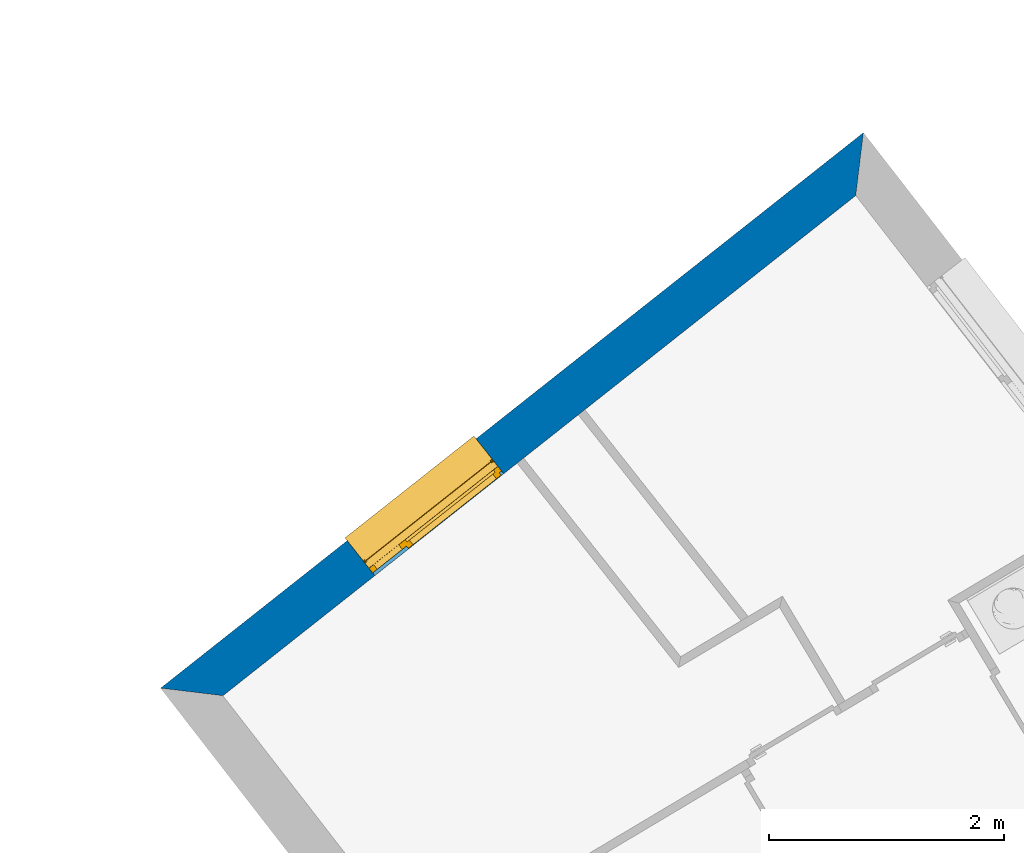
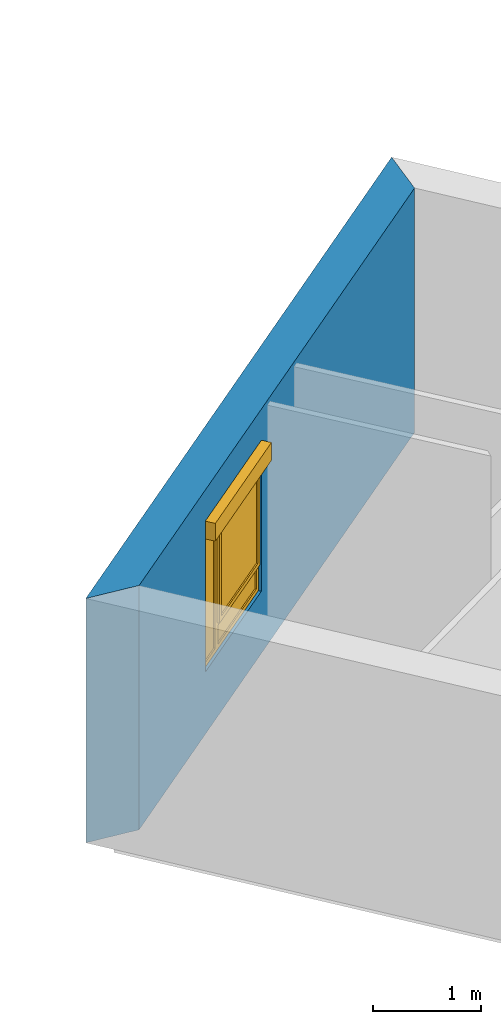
# One storey, part 42 of 121: 1 wall, 1 window, 1 opening.
"""IFC2X3 building model written with IfcOpenShell, lengths in metres."""

from ifc_helpers import new_model, entity, si_unit, converted_unit, derived_unit, money_unit, direction, frame, origin_with_axes, place, context, subcontext, project, spatial, polyline, outline, extrude, open_shell, faceted_brep, surface_model, source, transform, mapped, material, layer, layer_set, layer_usage, type_object, element, fill, save


model = new_model("IFC2X3")

# Units and contexts
model_context = context("Model", 3, precision=1e-05, world=origin_with_axes(), true_north=direction((0.0, 1.0)))
body_context = subcontext(model_context, "Body", "Model", "MODEL_VIEW")
ifc_project = project(units=[si_unit("LENGTHUNIT", "METRE"), si_unit("AREAUNIT", "SQUARE_METRE"), si_unit("VOLUMEUNIT", "CUBIC_METRE"), converted_unit("PLANEANGLEUNIT", "DEGREE", entity("IfcPlaneAngleMeasure", 0.0174532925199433), si_unit("PLANEANGLEUNIT", "RADIAN"), dimensions=[0, 0, 0, 0, 0, 0, 0]), money_unit("CHF"), converted_unit("TIMEUNIT", "Year", entity("IfcTimeMeasure", 31557600.0), si_unit("TIMEUNIT", "SECOND"), dimensions=[0, 0, 1, 0, 0, 0, 0]), si_unit("MASSUNIT", "GRAM", prefix="KILO"), si_unit("THERMODYNAMICTEMPERATUREUNIT", "DEGREE_CELSIUS"), si_unit("LUMINOUSINTENSITYUNIT", "LUMEN"), si_unit("ENERGYUNIT", "JOULE", prefix="MEGA"), derived_unit("THERMALCONDUCTANCEUNIT", [(si_unit("POWERUNIT", "WATT"), 1), (si_unit("LENGTHUNIT", "METRE"), -1), (si_unit("THERMODYNAMICTEMPERATUREUNIT", "KELVIN"), -1)]), derived_unit("SPECIFICHEATCAPACITYUNIT", [(si_unit("ENERGYUNIT", "JOULE"), 1), (si_unit("MASSUNIT", "GRAM", prefix="KILO"), -1), (si_unit("THERMODYNAMICTEMPERATUREUNIT", "KELVIN"), -1)]), derived_unit("MASSDENSITYUNIT", [(si_unit("MASSUNIT", "GRAM", prefix="KILO"), 1), (si_unit("VOLUMEUNIT", "CUBIC_METRE"), -1)])], contexts=[model_context])

# Site, building, storey
site_placement = place(None, origin_with_axes())
site = spatial("IfcSite", under=ifc_project, at=site_placement, Name="Site", CompositionType="ELEMENT")
building_placement = place(site_placement, origin_with_axes())
building = spatial("IfcBuilding", under=site, at=building_placement, Name="Bâtiment", CompositionType="ELEMENT")
storey_placement = place(building_placement, frame((0.0, 0.0, 2.75), z_axis=(0.0, 0.0, 1.0), x_axis=(1.0, 0.0, 0.0)))
storey = spatial("IfcBuildingStorey", under=building, at=storey_placement, Name="Etage 1", CompositionType="ELEMENT", Elevation=2.75)

# Wall, opening, window
ifc_material_1 = material(Name="Parpaing 312445824")
ifc_layer_1 = layer(ifc_material_1, 0.22, ventilated="UNKNOWN")
ifc_material_2 = material(Name="Isolant styromousse 301821074")
ifc_layer_2 = layer(ifc_material_2, 0.16, ventilated="UNKNOWN")
ifc_layer_set = layer_set([ifc_layer_1, ifc_layer_2], Name="isol int 22+16 0836643197")
ifc_layer_usage = layer_usage(ifc_layer_set, "AXIS2", "POSITIVE", 0.0)
wall_type = type_object("IfcWallType", Name="isol int 22+16 0836643197 380", PredefinedType="NOTDEFINED")
wall_placement = place(storey_placement, frame((9540.339143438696, -1037.191138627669, 57.7), z_axis=(0.0, 0.0, 1.0), x_axis=(-0.7845427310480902, -0.6200747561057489, 0.0)))
wall = element("IfcWallStandardCase", 1, at=wall_placement, inside=storey, type_object=wall_type, material=ifc_layer_usage, Name="Mur-113", context=body_context, shape_type="SweptSolid", body=[
    extrude(outline(polyline([(0.0, 0.0), (7.632717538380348, 0.0), (7.256232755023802, 0.3799999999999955), (0.38348109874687, 0.3799999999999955), (0.0, 0.0)])), origin_with_axes(), (0.0, 0.0, 1.0), 2.75),
])
opening_placement = place(wall_placement, frame((4.906284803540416, 0.0, 0.7000000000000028), z_axis=(0.0, 0.0, 1.0), x_axis=(1.0, 0.0, 0.0)))
opening = element("IfcOpeningElement", 2, at=opening_placement, cuts=wall, Name="Fen-045", context=body_context, shape_type="Brep", body=[
    faceted_brep([(-0.7000000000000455, 0.2999999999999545, 1.5), (-0.7000000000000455, 0.4799999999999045, 1.5), (-0.7000000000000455, 4.094127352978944, 1.5), (-0.7000000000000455, 4.094127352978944, 0.0), (-0.7000000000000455, 0.2999999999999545, 0.0), (-0.7000000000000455, 0.2200000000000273, 1.5), (-0.7000000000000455, 0.2200000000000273, 1.700000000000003), (-0.7000000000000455, 0.4799999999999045, 1.700000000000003), (0.6999999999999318, 0.4799999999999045, 1.5), (0.6999999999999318, 4.094127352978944, 1.5), (0.6999999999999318, 4.094127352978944, 0.0), (0.6999999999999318, 0.2999999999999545, 0.0), (-0.7000000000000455, -3.71412735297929, 0.0), (-0.7000000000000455, -3.71412735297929, 1.5), (0.7000000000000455, 0.2199999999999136, 1.5), (0.7000000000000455, 0.2199999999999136, 1.700000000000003), (0.6999999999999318, 0.4799999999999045, 1.700000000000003), (0.7000000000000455, 0.3000000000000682, 1.5), (0.6999999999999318, -3.714127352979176, 0.0), (0.6999999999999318, -3.714127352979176, 1.5)], [[[0, 1, 2, 3, 4]], [[1, 0, 5, 6, 7]], [[1, 8, 9, 2]], [[9, 10, 3, 2]], [[11, 4, 3, 10]], [[5, 0, 4, 12, 13]], [[5, 14, 15, 6]], [[15, 16, 7, 6]], [[8, 1, 7, 16]], [[8, 17, 11, 10, 9]], [[4, 11, 18, 12]], [[13, 12, 18, 19]], [[14, 5, 13, 19]], [[17, 8, 16, 15, 14]], [[17, 14, 19, 18, 11]]]),
])
window_style = type_object("IfcWindowStyle", Name="Fenêtre variable 27", ConstructionType="NOTDEFINED", OperationType="TRIPLE_PANEL_RIGHT", ParameterTakesPrecedence=False, Sizeable=False)
shared_shape = source(origin_with_axes(), body_context, "Body", "SurfaceModel", [
    surface_model("IfcShellBasedSurfaceModel", [(-0.7, -0.05100000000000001, 0.05), (-0.7, -0.05100000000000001, 0.04), (0.7, -0.05100000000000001, 0.04000000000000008), (0.7, -0.05100000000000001, 0.05000000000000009), (-0.7, -0.3799999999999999, 0.02899999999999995), (0.7, -0.3799999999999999, 0.02900000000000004), (-0.7, -0.3799999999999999, 0.008999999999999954), (0.7, -0.3799999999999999, 0.00900000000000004), (-0.7, -0.3699999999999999, 0.01899999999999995), (0.7, -0.3699999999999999, 0.01900000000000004)], [open_shell([[[0, 1, 2, 3]], [[1, 4, 5, 2]], [[4, 6, 7, 5]], [[6, 8, 9, 7]]])]),
    faceted_brep([(-0.7, -0.13, 1.7), (-0.697, -0.13, 1.7), (-0.697, 0.13, 1.7), (-0.7, 0.13, 1.7), (-0.7, -0.13, 1.5), (-0.697, -0.13, 1.5), (-0.697, 0.13, 1.5), (-0.7, 0.13, 1.5)], [[[0, 1, 2, 3]], [[4, 5, 1, 0]], [[1, 5, 6, 2]], [[3, 2, 6, 7]], [[0, 3, 7, 4]], [[7, 6, 5, 4]]]),
    faceted_brep([(0.6970000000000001, -0.1299999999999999, 1.7), (0.7000000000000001, -0.1299999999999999, 1.7), (0.7000000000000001, 0.1300000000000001, 1.7), (0.6970000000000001, 0.1300000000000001, 1.7), (0.6970000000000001, -0.1299999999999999, 1.5), (0.7000000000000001, -0.1299999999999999, 1.5), (0.7000000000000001, 0.1300000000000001, 1.5), (0.6970000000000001, 0.1300000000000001, 1.5)], [[[0, 1, 2, 3]], [[4, 5, 1, 0]], [[1, 5, 6, 2]], [[3, 2, 6, 7]], [[0, 3, 7, 4]], [[7, 6, 5, 4]]]),
    faceted_brep([(-0.697, -0.13, 1.5), (0.697, -0.1299999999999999, 1.5), (0.697, -0.1299999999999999, 1.7), (-0.697, -0.13, 1.7), (-0.697, -0.127, 1.5), (0.697, -0.1269999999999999, 1.5), (0.697, -0.1269999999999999, 1.697), (0.697, 0.1270000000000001, 1.697), (0.697, 0.1270000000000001, 1.503), (0.697, -0.1079999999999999, 1.503), (0.697, -0.1079999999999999, 1.5), (0.697, 0.1300000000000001, 1.5), (0.697, 0.1300000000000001, 1.7), (-0.697, 0.13, 1.7), (-0.697, 0.13, 1.5), (-0.697, -0.108, 1.5), (-0.697, -0.108, 1.503), (-0.697, 0.127, 1.503), (-0.697, 0.127, 1.697), (-0.697, -0.127, 1.697)], [[[0, 1, 2, 3]], [[4, 5, 1, 0]], [[1, 5, 6, 7, 8, 9, 10, 11, 12, 2]], [[3, 2, 12, 13]], [[0, 3, 13, 14, 15, 16, 17, 18, 19, 4]], [[19, 6, 5, 4]], [[18, 7, 6, 19]], [[17, 8, 7, 18]], [[16, 9, 8, 17]], [[15, 10, 9, 16]], [[14, 11, 10, 15]], [[13, 12, 11, 14]]]),
    faceted_brep([(-0.694, -0.08075423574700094, 1.585760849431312), (-0.694, -0.08200000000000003, 1.6), (-0.694, -0.0807542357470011, 1.614239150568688), (-0.694, -0.07705479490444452, 1.628045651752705), (-0.694, -0.07101408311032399, 1.641), (-0.694, -0.06281564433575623, 1.652708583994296), (-0.694, -0.05270858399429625, 1.662815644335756), (-0.694, -0.04100000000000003, 1.671014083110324), (-0.694, -0.02804565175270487, 1.677054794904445), (-0.694, -0.01423915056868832, 1.680754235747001), (-0.694, 0.0, 1.682), (-0.694, 0.01423915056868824, 1.680754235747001), (-0.694, 0.02804565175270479, 1.677054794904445), (-0.694, 0.04099999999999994, 1.671014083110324), (-0.694, 0.05270858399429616, 1.662815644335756), (-0.694, 0.06281564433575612, 1.652708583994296), (-0.694, 0.07101408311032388, 1.641), (-0.694, 0.0770547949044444, 1.628045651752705), (-0.694, 0.08075423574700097, 1.614239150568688), (-0.694, 0.0819999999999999, 1.6), (-0.694, 0.08075423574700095, 1.585760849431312), (-0.694, 0.07705479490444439, 1.571954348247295), (-0.694, 0.07101408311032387, 1.559), (-0.694, 0.06281564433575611, 1.547291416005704), (-0.694, 0.05270858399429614, 1.537184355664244), (-0.694, 0.04099999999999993, 1.528985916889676), (-0.694, 0.02804565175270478, 1.522945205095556), (-0.694, 0.01423915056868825, 1.519245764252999), (-0.694, 0.0, 1.518), (-0.694, -0.01423915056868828, 1.519245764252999), (-0.694, -0.02804565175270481, 1.522945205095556), (-0.694, -0.04099999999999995, 1.528985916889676), (-0.694, -0.05270858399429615, 1.537184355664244), (-0.694, -0.06281564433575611, 1.547291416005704), (-0.694, -0.07101408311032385, 1.559), (-0.694, -0.07705479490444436, 1.571954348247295), (0.694, -0.08075423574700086, 1.585760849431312), (0.694, -0.08199999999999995, 1.6), (0.694, -0.08075423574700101, 1.614239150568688), (0.694, -0.07705479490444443, 1.628045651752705), (0.694, -0.07101408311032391, 1.641), (0.694, -0.06281564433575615, 1.652708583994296), (0.694, -0.05270858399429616, 1.662815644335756), (0.694, -0.04099999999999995, 1.671014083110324), (0.694, -0.02804565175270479, 1.677054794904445), (0.694, -0.01423915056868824, 1.680754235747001), (0.694, 0.0, 1.682), (0.694, 0.01423915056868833, 1.680754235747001), (0.694, 0.02804565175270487, 1.677054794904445), (0.694, 0.04100000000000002, 1.671014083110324), (0.694, 0.05270858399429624, 1.662815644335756), (0.694, 0.0628156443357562, 1.652708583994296), (0.694, 0.07101408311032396, 1.641), (0.694, 0.07705479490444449, 1.628045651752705), (0.694, 0.08075423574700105, 1.614239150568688), (0.694, 0.08199999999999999, 1.6), (0.694, 0.08075423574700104, 1.585760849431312), (0.694, 0.07705479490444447, 1.571954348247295), (0.694, 0.07101408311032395, 1.559), (0.694, 0.06281564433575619, 1.547291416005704), (0.694, 0.05270858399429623, 1.537184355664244), (0.694, 0.04100000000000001, 1.528985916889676), (0.694, 0.02804565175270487, 1.522945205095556), (0.694, 0.01423915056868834, 1.519245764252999), (0.694, 0.0, 1.518), (0.694, -0.0142391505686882, 1.519245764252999), (0.694, -0.02804565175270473, 1.522945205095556), (0.694, -0.04099999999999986, 1.528985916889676), (0.694, -0.05270858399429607, 1.537184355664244), (0.694, -0.06281564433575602, 1.547291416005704), (0.694, -0.07101408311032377, 1.559), (0.694, -0.07705479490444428, 1.571954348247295)], [[[0, 1, 2, 3, 4, 5, 6, 7, 8, 9, 10, 11, 12, 13, 14, 15, 16, 17, 18, 19, 20, 21, 22, 23, 24, 25, 26, 27, 28, 29, 30, 31, 32, 33, 34, 35]], [[0, 36, 37, 1]], [[1, 37, 38, 2]], [[2, 38, 39, 3]], [[3, 39, 40, 4]], [[4, 40, 41, 5]], [[5, 41, 42, 6]], [[6, 42, 43, 7]], [[7, 43, 44, 8]], [[8, 44, 45, 9]], [[9, 45, 46, 10]], [[10, 46, 47, 11]], [[11, 47, 48, 12]], [[12, 48, 49, 13]], [[13, 49, 50, 14]], [[14, 50, 51, 15]], [[15, 51, 52, 16]], [[16, 52, 53, 17]], [[17, 53, 54, 18]], [[18, 54, 55, 19]], [[19, 55, 56, 20]], [[20, 56, 57, 21]], [[21, 57, 58, 22]], [[22, 58, 59, 23]], [[23, 59, 60, 24]], [[24, 60, 61, 25]], [[25, 61, 62, 26]], [[26, 62, 63, 27]], [[27, 63, 64, 28]], [[28, 64, 65, 29]], [[29, 65, 66, 30]], [[30, 66, 67, 31]], [[31, 67, 68, 32]], [[32, 68, 69, 33]], [[33, 69, 70, 34]], [[34, 70, 71, 35]], [[35, 71, 36, 0]], [[36, 71, 70, 69, 68, 67, 66, 65, 64, 63, 62, 61, 60, 59, 58, 57, 56, 55, 54, 53, 52, 51, 50, 49, 48, 47, 46, 45, 44, 43, 42, 41, 40, 39, 38, 37]]]),
    faceted_brep([(0.7, -0.105, 0.03), (0.7, -0.1049999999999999, 1.5), (0.7, -0.1299999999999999, 1.5), (0.7, -0.13, 0.03), (0.6749999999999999, -0.105, 0.03), (0.6749999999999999, -0.1049999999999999, 1.5), (0.6749999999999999, -0.1079999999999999, 1.5), (0.697, -0.1079999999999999, 1.5), (0.697, -0.1269999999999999, 1.5), (0.6749999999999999, -0.1269999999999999, 1.5), (0.6749999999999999, -0.1299999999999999, 1.5), (0.6749999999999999, -0.13, 0.03), (0.6749999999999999, -0.127, 0.03), (0.697, -0.127, 0.03), (0.697, -0.108, 0.03), (0.6749999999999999, -0.108, 0.03)], [[[0, 1, 2, 3]], [[4, 5, 1, 0]], [[1, 5, 6, 7, 8, 9, 10, 2]], [[3, 2, 10, 11]], [[0, 3, 11, 12, 13, 14, 15, 4]], [[15, 6, 5, 4]], [[14, 7, 6, 15]], [[13, 8, 7, 14]], [[12, 9, 8, 13]], [[11, 10, 9, 12]]]),
    faceted_brep([(-0.7, -0.105, 0.03), (-0.7, -0.13, 0.03), (-0.7, -0.1299999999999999, 1.5), (-0.7, -0.1049999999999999, 1.5), (-0.6749999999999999, -0.105, 0.03), (-0.6749999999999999, -0.108, 0.03), (-0.697, -0.108, 0.03), (-0.697, -0.127, 0.03), (-0.6749999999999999, -0.127, 0.03), (-0.6749999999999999, -0.13, 0.03), (-0.6749999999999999, -0.1299999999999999, 1.5), (-0.6749999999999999, -0.1269999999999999, 1.5), (-0.697, -0.1269999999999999, 1.5), (-0.697, -0.1079999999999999, 1.5), (-0.6749999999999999, -0.1079999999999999, 1.5), (-0.6749999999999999, -0.1049999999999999, 1.5)], [[[0, 1, 2, 3]], [[0, 4, 5, 6, 7, 8, 9, 1]], [[1, 9, 10, 2]], [[3, 2, 10, 11, 12, 13, 14, 15]], [[4, 0, 3, 15]], [[5, 4, 15, 14]], [[6, 5, 14, 13]], [[7, 6, 13, 12]], [[8, 7, 12, 11]], [[9, 8, 11, 10]]]),
    surface_model("IfcShellBasedSurfaceModel", [(-0.697, -0.115, 1.6), (0.697, -0.1149999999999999, 1.6), (0.697, -0.1199999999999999, 1.6), (-0.697, -0.12, 1.6), (-0.697, -0.115, 1.6), (-0.697, -0.12, 1.6), (0.697, -0.12, 1.6), (0.697, -0.1149999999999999, 1.6)], [open_shell([[[0, 1, 2, 3]], [[4, 5, 6, 7]]])]),
    faceted_brep([(-0.697, -0.115, 1.6), (0.697, -0.1149999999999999, 1.6), (0.697, -0.1166666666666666, 1.583333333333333), (-0.697, -0.1166666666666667, 1.583333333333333), (-0.697, -0.12, 1.6), (0.697, -0.1199999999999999, 1.6), (0.697, -0.1216666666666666, 1.583333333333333), (0.697, -0.1216666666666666, 1.566666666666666), (0.697, -0.1199999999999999, 1.55), (0.697, -0.1149999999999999, 1.55), (0.697, -0.1166666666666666, 1.566666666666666), (-0.697, -0.1166666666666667, 1.566666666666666), (-0.697, -0.115, 1.55), (-0.697, -0.12, 1.55), (-0.697, -0.1216666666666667, 1.566666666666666), (-0.697, -0.1216666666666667, 1.583333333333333)], [[[0, 1, 2, 3]], [[4, 5, 1, 0]], [[1, 5, 6, 7, 8, 9, 10, 2]], [[3, 2, 10, 11]], [[0, 3, 11, 12, 13, 14, 15, 4]], [[15, 6, 5, 4]], [[14, 7, 6, 15]], [[13, 8, 7, 14]], [[12, 9, 8, 13]], [[11, 10, 9, 12]]]),
    faceted_brep([(-0.697, -0.115, 1.55), (0.697, -0.1149999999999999, 1.55), (0.697, -0.1166666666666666, 1.533333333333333), (-0.697, -0.1166666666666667, 1.533333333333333), (-0.697, -0.12, 1.55), (0.697, -0.1199999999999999, 1.55), (0.697, -0.1216666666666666, 1.533333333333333), (0.697, -0.1216666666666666, 1.516666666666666), (0.697, -0.1199999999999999, 1.5), (0.697, -0.1149999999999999, 1.5), (0.697, -0.1166666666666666, 1.516666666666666), (-0.697, -0.1166666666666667, 1.516666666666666), (-0.697, -0.115, 1.5), (-0.697, -0.12, 1.5), (-0.697, -0.1216666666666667, 1.516666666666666), (-0.697, -0.1216666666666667, 1.533333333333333)], [[[0, 1, 2, 3]], [[4, 5, 1, 0]], [[1, 5, 6, 7, 8, 9, 10, 2]], [[3, 2, 10, 11]], [[0, 3, 11, 12, 13, 14, 15, 4]], [[15, 6, 5, 4]], [[14, 7, 6, 15]], [[13, 8, 7, 14]], [[12, 9, 8, 13]], [[11, 10, 9, 12]]]),
    faceted_brep([(-0.6749999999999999, 0.0, 1.45), (-0.7, 0.0, 1.45), (-0.7, -0.05000000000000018, 1.45), (-0.6499999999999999, -0.05000000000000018, 1.45), (-0.6499999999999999, -0.02500000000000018, 1.45), (-0.6749999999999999, -0.02500000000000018, 1.45), (-0.6749999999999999, 0.0, 0.3099999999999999), (-0.6499999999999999, 0.0, 0.3099999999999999), (-0.6499999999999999, 0.0, 0.265), (-0.6499999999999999, 0.0, 0.05000000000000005), (-0.7, 0.0, 0.05000000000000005), (-0.7, -0.05000000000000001, 0.05000000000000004), (-0.6499999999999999, -0.05000000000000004, 0.335), (-0.6499999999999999, -0.05000000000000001, 0.05000000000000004), (-0.6499999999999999, -0.05000000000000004, 0.265), (-0.6499999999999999, -0.02500000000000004, 0.335), (-0.6499999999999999, -0.02500000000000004, 0.3099999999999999), (-0.6749999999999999, -0.02500000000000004, 0.3099999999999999)], [[[0, 1, 2, 3, 4, 5]], [[6, 7, 8, 9, 10, 1, 0]], [[1, 10, 11, 2]], [[12, 3, 2, 11, 13, 14]], [[4, 3, 12, 15]], [[15, 16, 17, 5, 4]], [[5, 17, 6, 0]], [[6, 17, 16, 7]], [[16, 15, 12, 14, 8, 7]], [[9, 8, 14, 13]], [[10, 9, 13, 11]]]),
    faceted_brep([(0.3068894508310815, -0.02500000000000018, 1.45), (0.3068894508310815, -0.05000000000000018, 1.45), (0.3768894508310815, -0.05000000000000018, 1.45), (0.3768894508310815, 0.0, 1.45), (0.3318894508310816, 0.0, 1.45), (0.3318894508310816, -0.02500000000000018, 1.45), (0.3068894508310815, -0.02500000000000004, 0.335), (0.3068894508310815, -0.05000000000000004, 0.335), (0.3068894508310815, -0.05000000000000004, 0.265), (0.3068894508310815, -0.05000000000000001, 0.05000000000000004), (0.3768894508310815, -0.05000000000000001, 0.05000000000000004), (0.3768894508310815, 0.0, 0.05000000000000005), (0.3318894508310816, 0.0, 0.3099999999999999), (0.3068894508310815, 0.0, 0.05000000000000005), (0.3068894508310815, 0.0, 0.265), (0.3068894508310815, 0.0, 0.3099999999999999), (0.3318894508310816, -0.02500000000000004, 0.3099999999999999), (0.3068894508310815, -0.02500000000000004, 0.3099999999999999)], [[[0, 1, 2, 3, 4, 5]], [[6, 7, 1, 0]], [[8, 9, 10, 2, 1, 7]], [[11, 3, 2, 10]], [[12, 4, 3, 11, 13, 14, 15]], [[12, 16, 5, 4]], [[5, 16, 17, 6, 0]], [[17, 15, 14, 8, 7, 6]], [[14, 13, 9, 8]], [[13, 11, 10, 9]], [[15, 17, 16, 12]]]),
    faceted_brep([(-0.6499999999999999, -0.02500000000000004, 0.335), (-0.6499999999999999, -0.05000000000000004, 0.335), (0.3068894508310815, -0.05000000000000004, 0.335), (0.3068894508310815, -0.02500000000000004, 0.335), (-0.6499999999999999, -0.02500000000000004, 0.3099999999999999), (-0.6499999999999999, 0.0, 0.3099999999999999), (-0.6499999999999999, 0.0, 0.265), (-0.6499999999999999, -0.05000000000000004, 0.265), (0.3068894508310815, -0.05000000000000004, 0.265), (0.3068894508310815, -0.02500000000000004, 0.3099999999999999), (0.3068894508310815, 0.0, 0.265), (0.3068894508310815, 0.0, 0.3099999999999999)], [[[0, 1, 2, 3]], [[4, 5, 6, 7, 1, 0]], [[2, 1, 7, 8]], [[9, 3, 2, 8, 10, 11]], [[9, 4, 0, 3]], [[5, 4, 9, 11]], [[11, 10, 6, 5]], [[6, 10, 8, 7]]]),
    faceted_brep([(-0.6749999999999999, 0.0, 1.45), (-0.7, 0.0, 1.45), (-0.7, 0.0, 1.5), (0.7, 0.0, 1.5), (0.7, 0.0, 1.45), (0.6499999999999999, 0.0, 1.45), (0.3768894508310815, 0.0, 1.45), (0.3318894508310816, 0.0, 1.45), (0.3318894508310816, 0.0, 1.475), (-0.6749999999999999, 0.0, 1.475), (-0.6749999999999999, -0.02500000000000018, 1.45), (-0.6499999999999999, -0.02500000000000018, 1.45), (-0.6499999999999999, -0.05000000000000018, 1.45), (-0.7, -0.05000000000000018, 1.45), (-0.7, -0.05000000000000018, 1.5), (0.7, -0.05000000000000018, 1.5), (0.7, -0.05000000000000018, 1.45), (0.6499999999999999, -0.05000000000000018, 1.45), (0.3768894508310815, -0.05000000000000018, 1.45), (0.3318894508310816, -0.02500000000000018, 1.45), (0.3068894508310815, -0.05000000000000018, 1.45), (0.3068894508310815, -0.02500000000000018, 1.45), (0.3318894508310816, -0.02500000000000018, 1.475), (-0.6749999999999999, -0.02500000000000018, 1.475)], [[[0, 1, 2, 3, 4, 5, 6, 7, 8, 9]], [[10, 11, 12, 13, 1, 0]], [[2, 1, 13, 14]], [[3, 2, 14, 15]], [[4, 3, 15, 16]], [[5, 4, 16, 17]], [[6, 5, 17, 18]], [[19, 7, 6, 18, 20, 21]], [[7, 19, 22, 8]], [[8, 22, 23, 9]], [[9, 23, 10, 0]], [[21, 11, 10, 23, 22, 19]], [[21, 20, 12, 11]], [[18, 17, 16, 15, 14, 13, 12, 20]]]),
    faceted_brep([(0.6499999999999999, -0.05000000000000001, 0.05), (0.6499999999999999, 0.0, 0.05000000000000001), (0.7, 0.0, 0.05000000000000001), (0.7, -0.05000000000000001, 0.05), (0.6499999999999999, -0.05000000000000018, 1.45), (0.6499999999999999, 0.0, 1.45), (0.7, 0.0, 1.45), (0.7, -0.05000000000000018, 1.45)], [[[0, 1, 2, 3]], [[4, 5, 1, 0]], [[1, 5, 6, 2]], [[3, 2, 6, 7]], [[0, 3, 7, 4]], [[7, 6, 5, 4]]]),
    faceted_brep([(-0.6499999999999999, -0.05000000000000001, 0.05), (-0.6499999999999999, 0.0, 0.05000000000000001), (-0.7, 0.0, 0.05000000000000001), (-0.7, -0.05000000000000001, 0.05), (0.3068894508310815, -0.05000000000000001, 0.05), (0.3068894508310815, 0.0, 0.05000000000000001), (0.3768894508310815, 0.0, 0.05000000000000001), (0.6499999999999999, 0.0, 0.05000000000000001), (0.7, 0.0, 0.05000000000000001), (0.7, 0.0, 0.0), (-0.7, 0.0, 0.0), (-0.7, -0.05, 0.0), (0.7, -0.05, 0.0), (0.7, -0.05000000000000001, 0.05), (0.6499999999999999, -0.05000000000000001, 0.05), (0.3768894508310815, -0.05000000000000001, 0.05)], [[[0, 1, 2, 3]], [[4, 5, 1, 0]], [[1, 5, 6, 7, 8, 9, 10, 2]], [[3, 2, 10, 11]], [[0, 3, 11, 12, 13, 14, 15, 4]], [[15, 6, 5, 4]], [[14, 7, 6, 15]], [[13, 8, 7, 14]], [[12, 9, 8, 13]], [[11, 10, 9, 12]]]),
    faceted_brep([(-0.625, -0.02500000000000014, 1.425), (-0.625, 0.02499999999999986, 1.425), (-0.6749999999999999, 0.02499999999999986, 1.425), (-0.6749999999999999, -0.02500000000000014, 1.425), (-0.625, -0.02500000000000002, 0.3599999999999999), (-0.625, 0.02499999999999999, 0.3599999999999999), (-0.6749999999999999, 0.02499999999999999, 0.3599999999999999), (-0.6749999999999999, -0.02500000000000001, 0.3599999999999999)], [[[0, 1, 2, 3]], [[4, 5, 1, 0]], [[1, 5, 6, 2]], [[3, 2, 6, 7]], [[0, 3, 7, 4]], [[7, 6, 5, 4]]]),
    faceted_brep([(0.2818894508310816, -0.02500000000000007, 0.3599999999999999), (0.2818894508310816, 0.02499999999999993, 0.3599999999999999), (0.3318894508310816, 0.02499999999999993, 0.3599999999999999), (0.3318894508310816, -0.02500000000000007, 0.3599999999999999), (0.2818894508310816, -0.0250000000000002, 1.425), (0.2818894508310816, 0.0249999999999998, 1.425), (0.3318894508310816, 0.0249999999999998, 1.425), (0.3318894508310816, -0.0250000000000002, 1.425)], [[[0, 1, 2, 3]], [[4, 5, 1, 0]], [[1, 5, 6, 2]], [[3, 2, 6, 7]], [[0, 3, 7, 4]], [[7, 6, 5, 4]]]),
    faceted_brep([(0.3318894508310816, -0.02500000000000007, 0.3099999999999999), (0.3318894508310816, 0.02499999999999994, 0.3099999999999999), (0.3318894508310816, 0.02499999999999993, 0.3599999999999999), (0.3318894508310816, -0.02500000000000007, 0.3599999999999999), (-0.6749999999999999, -0.025, 0.3099999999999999), (-0.6749999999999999, 0.02499999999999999, 0.3099999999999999), (-0.6749999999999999, 0.02499999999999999, 0.3599999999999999), (-0.625, 0.02499999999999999, 0.3599999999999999), (0.2818894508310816, 0.02499999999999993, 0.3599999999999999), (0.2818894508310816, -0.02500000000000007, 0.3599999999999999), (-0.625, -0.02500000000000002, 0.3599999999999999), (-0.6749999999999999, -0.02500000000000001, 0.3599999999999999)], [[[0, 1, 2, 3]], [[4, 5, 1, 0]], [[1, 5, 6, 7, 8, 2]], [[3, 2, 8, 9]], [[0, 3, 9, 10, 11, 4]], [[11, 6, 5, 4]], [[10, 7, 6, 11]], [[9, 8, 7, 10]]]),
    faceted_brep([(-0.6749999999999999, -0.02500000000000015, 1.475), (-0.6749999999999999, 0.02499999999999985, 1.475), (-0.6749999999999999, 0.02499999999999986, 1.425), (-0.6749999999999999, -0.02500000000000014, 1.425), (0.3318894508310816, -0.02500000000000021, 1.475), (0.3318894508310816, 0.02499999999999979, 1.475), (0.3318894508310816, 0.0249999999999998, 1.425), (0.2818894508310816, 0.0249999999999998, 1.425), (-0.625, 0.02499999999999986, 1.425), (-0.625, -0.02500000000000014, 1.425), (0.2818894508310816, -0.0250000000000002, 1.425), (0.3318894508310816, -0.0250000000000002, 1.425)], [[[0, 1, 2, 3]], [[4, 5, 1, 0]], [[1, 5, 6, 7, 8, 2]], [[3, 2, 8, 9]], [[0, 3, 9, 10, 11, 4]], [[11, 6, 5, 4]], [[10, 7, 6, 11]], [[9, 8, 7, 10]]]),
    surface_model("IfcShellBasedSurfaceModel", [(-0.625, -0.01000000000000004, 0.3599999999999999), (0.2818894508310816, -0.01000000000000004, 0.3599999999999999), (0.2818894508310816, -0.01000000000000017, 1.425), (-0.625, -0.01000000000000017, 1.425)], [open_shell([[[0, 1, 2, 3]]])]),
    surface_model("IfcShellBasedSurfaceModel", [(-0.625, 0.009999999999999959, 0.3599999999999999), (-0.625, 0.00999999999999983, 1.425), (0.2818894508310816, 0.00999999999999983, 1.425), (0.2818894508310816, 0.009999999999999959, 0.3599999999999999)], [open_shell([[[0, 1, 2, 3]]])]),
    surface_model("IfcShellBasedSurfaceModel", [(0.3768894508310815, -0.035, 0.05), (0.65, -0.035, 0.05), (0.65, -0.03500000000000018, 1.45), (0.3768894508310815, -0.03500000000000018, 1.45)], [open_shell([[[0, 1, 2, 3]]])]),
    surface_model("IfcShellBasedSurfaceModel", [(0.3768894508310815, -0.015, 0.05), (0.3768894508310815, -0.01500000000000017, 1.45), (0.65, -0.01500000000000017, 1.45), (0.65, -0.015, 0.05)], [open_shell([[[0, 1, 2, 3]]])]),
    surface_model("IfcShellBasedSurfaceModel", [(-0.6499999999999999, -0.035, 0.05), (0.3068894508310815, -0.035, 0.05), (0.3068894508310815, -0.03500000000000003, 0.265), (-0.6499999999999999, -0.03500000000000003, 0.265)], [open_shell([[[0, 1, 2, 3]]])]),
    surface_model("IfcShellBasedSurfaceModel", [(-0.6499999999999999, -0.015, 0.05), (-0.6499999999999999, -0.01500000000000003, 0.265), (0.3068894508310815, -0.01500000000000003, 0.265), (0.3068894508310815, -0.015, 0.05)], [open_shell([[[0, 1, 2, 3]]])]),
])
window_placement = place(opening_placement, frame((-0.699999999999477, 0.0, 0.0), z_axis=(0.0, 0.0, 1.0), x_axis=(1.0, 0.0, 0.0)))
window = element("IfcWindow", 3, at=window_placement, inside=storey, type_object=window_style, Name="Fen-045", OverallHeight=1.5, OverallWidth=1.4, context=body_context, shape_type="MappedRepresentation", body=[
    mapped(shared_shape, transform((0.6999999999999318, 0.3500000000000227, 0.0))),
])
fill(opening, window)

save(model, "model.ifc")
